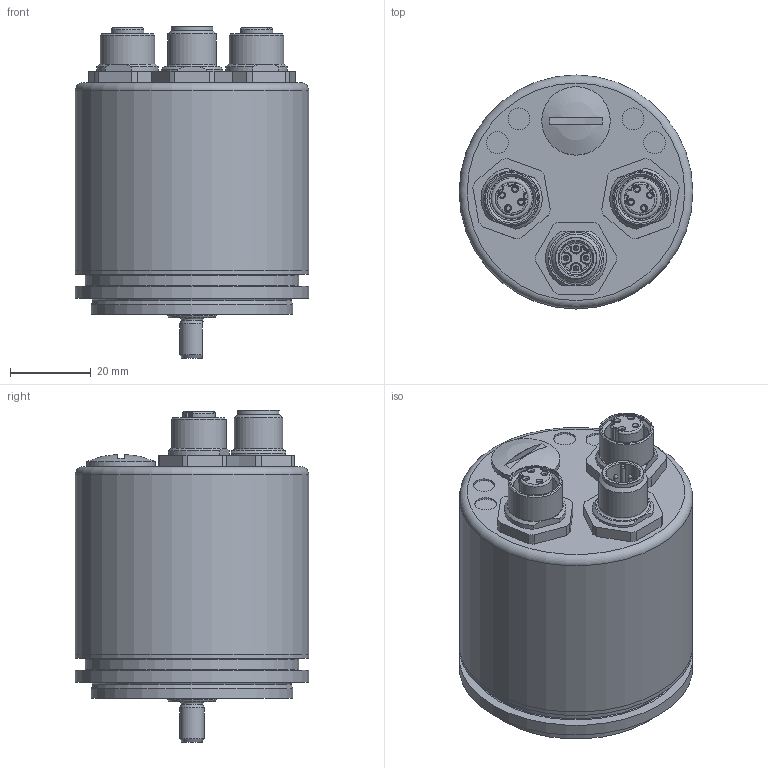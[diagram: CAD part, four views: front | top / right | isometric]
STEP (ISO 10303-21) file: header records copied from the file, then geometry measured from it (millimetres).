
FILE_DESCRIPTION( ( 'Unknown' ), '1' );
FILE_NAME( 'Z:/PJ-RD-MC/10601626_MAGRES_4/20__Produktmanagement/Datenblatt/Vereinfachte Modelle und DAB-Zeichnungen/November 2016/58/Servoflansch/EAM580-SY6.5Yxx.xxxxx.A.stp', 'Unknown', ( 'Unknown' ), ( 'Unknown' ), 'PSStep 15.0.49', 'Unknown', ' ' );
FILE_SCHEMA( ( 'AUTOMOTIVE_DESIGN { 1 0 10303 214 1 1 1 1 }' ) );
Length unit declared in the file: millimetre
Products named in the file (9): 58 S BoMo vereinfacht; 11158181_vereinfacht; 11158186 vereinfacht; 58 Haube Ethernet axial vereinfacht; 11164481 vereinfacht; 10124678; RSH4-012P4_8067A29 vereinfacht; RKH 4D_0_1 vereinfacht; Assem1
Assembly tree (9 placements, depth 3):
  Assem1
    58 S BoMo vereinfacht
      11158181_vereinfacht
      11158186 vereinfacht
    58 Haube Ethernet axial vereinfacht
      11164481 vereinfacht
      10124678
      RSH4-012P4_8067A29 vereinfacht
      RKH 4D_0_1 vereinfacht  x2
Bounding box: 58 x 58 x 82.4 mm (x, y, z)
Surface area: 38047.9 mm2 (no closed solid volume)
Topology: 0 solids, 396 shells, 396 faces, 1633 edges, 1531 vertices
Faces by surface type: cylinder 165, plane 142, torus 35, cone 29, bspline 24, sphere 1
Full cylindrical faces by diameter (mm): 1 x4, 1.1 x8, 1.3 x4, 1.9 x2, 2.459 x6, 3.242 x6, 5.4 x4, 8.3 x1, 8.6 x2, 9.338 x2, 10 x2, 10.9 x1, 10.92 x2, 12 x2, 12.2 x2, 12.5 x2, 13.5 x2, 15.2 x2, 15.8 x1, 17 x1, 26 x1, 26.06 x1, 50 x1, 53 x1, 56 x2, 58 x3
Entity records: 16972 total; most frequent: CARTESIAN_POINT 5151, DIRECTION 2228, VERTEX_POINT 1084, ORIENTED_EDGE 1082, EDGE_CURVE 1082, AXIS2_PLACEMENT_3D 931, CIRCLE 640, FACE_BOUND 430
